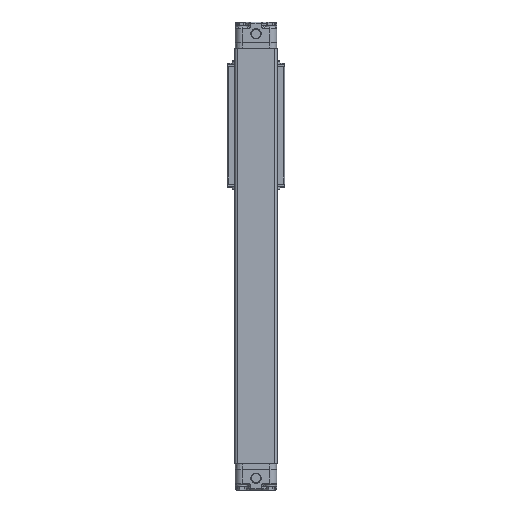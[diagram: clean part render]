
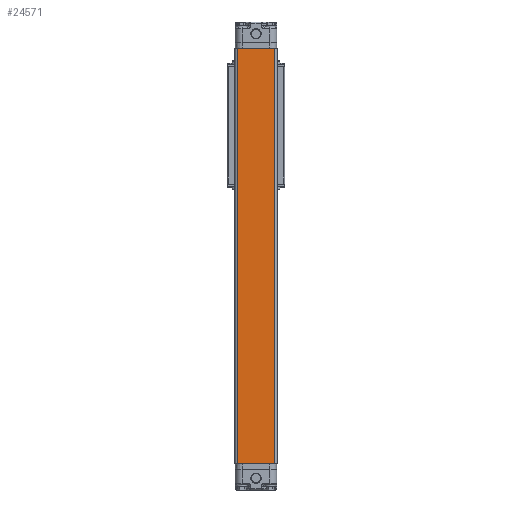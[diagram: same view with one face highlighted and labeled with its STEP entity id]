
A CAD part, front view. The second image highlights one B-rep face of the part: STEP entity #24571.
In plain terms, the highlighted planar face has unit normal (0, -1, 0).
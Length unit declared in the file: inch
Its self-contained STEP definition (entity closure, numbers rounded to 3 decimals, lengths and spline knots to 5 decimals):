
#1163 = ORIENTED_EDGE ( 'NONE', *, *, #21733, .F. ) ;
#1228 = VECTOR ( 'NONE', #38182, 39.37008 ) ;
#4308 = CARTESIAN_POINT ( 'NONE',  ( -0.7155, -0.78, 0. ) ) ;
#6306 = VERTEX_POINT ( 'NONE', #41444 ) ;
#7210 = LINE ( 'NONE', #30112, #13646 ) ;
#8165 = ORIENTED_EDGE ( 'NONE', *, *, #13805, .T. ) ;
#8324 = CARTESIAN_POINT ( 'NONE',  ( -0.53, -0.78, 0. ) ) ;
#8678 = VERTEX_POINT ( 'NONE', #51080 ) ;
#9145 = PLANE ( 'NONE',  #28674 ) ;
#10803 = CARTESIAN_POINT ( 'NONE',  ( 0.7155, -0.78, 0. ) ) ;
#11450 = VERTEX_POINT ( 'NONE', #29585 ) ;
#12719 = DIRECTION ( 'NONE',  ( 1., 0., 0. ) ) ;
#12908 = VECTOR ( 'NONE', #12719, 39.37008 ) ;
#12987 = EDGE_CURVE ( 'NONE', #13177, #43556, #20603, .T. ) ;
#13177 = VERTEX_POINT ( 'NONE', #50375 ) ;
#13288 = ORIENTED_EDGE ( 'NONE', *, *, #19747, .F. ) ;
#13504 = LINE ( 'NONE', #39198, #22242 ) ;
#13646 = VECTOR ( 'NONE', #45135, 39.37008 ) ;
#13805 = EDGE_CURVE ( 'NONE', #14424, #27169, #7210, .T. ) ;
#13888 = CARTESIAN_POINT ( 'NONE',  ( 0.53, -0.78, -15.886 ) ) ;
#14213 = ORIENTED_EDGE ( 'NONE', *, *, #49560, .T. ) ;
#14407 = CARTESIAN_POINT ( 'NONE',  ( -0.7155, -0.78, 0. ) ) ;
#14424 = VERTEX_POINT ( 'NONE', #55982 ) ;
#15069 = DIRECTION ( 'NONE',  ( -1., 0., 0. ) ) ;
#17679 = ORIENTED_EDGE ( 'NONE', *, *, #51837, .T. ) ;
#17739 = VERTEX_POINT ( 'NONE', #27626 ) ;
#18180 = DIRECTION ( 'NONE',  ( 0., -1., 0. ) ) ;
#18479 = DIRECTION ( 'NONE',  ( 1., 0., 0. ) ) ;
#18934 = ORIENTED_EDGE ( 'NONE', *, *, #24048, .F. ) ;
#19747 = EDGE_CURVE ( 'NONE', #43556, #11450, #53980, .T. ) ;
#20603 = LINE ( 'NONE', #38384, #33829 ) ;
#21733 = EDGE_CURVE ( 'NONE', #11450, #17739, #44776, .T. ) ;
#22242 = VECTOR ( 'NONE', #53344, 39.37008 ) ;
#22990 = CARTESIAN_POINT ( 'NONE',  ( -0.7155, -0.78, -15.886 ) ) ;
#24048 = EDGE_CURVE ( 'NONE', #6306, #8678, #55717, .T. ) ;
#24571 = ADVANCED_FACE ( 'NONE', ( #54335 ), #9145, .T. ) ;
#26748 = LINE ( 'NONE', #59228, #44353 ) ;
#27169 = VERTEX_POINT ( 'NONE', #10803 ) ;
#27626 = CARTESIAN_POINT ( 'NONE',  ( 0.61954, -0.78, 0. ) ) ;
#28674 = AXIS2_PLACEMENT_3D ( 'NONE', #22990, #18180, #18479 ) ;
#29585 = CARTESIAN_POINT ( 'NONE',  ( -0.61954, -0.78, 0. ) ) ;
#30112 = CARTESIAN_POINT ( 'NONE',  ( 0.7155, -0.78, -15.886 ) ) ;
#33829 = VECTOR ( 'NONE', #38985, 39.37008 ) ;
#34409 = VECTOR ( 'NONE', #54117, 39.37008 ) ;
#38182 = DIRECTION ( 'NONE',  ( 1., 0., 0. ) ) ;
#38384 = CARTESIAN_POINT ( 'NONE',  ( -0.7155, -0.78, -15.886 ) ) ;
#38985 = DIRECTION ( 'NONE',  ( 0., 0., 1. ) ) ;
#39198 = CARTESIAN_POINT ( 'NONE',  ( -0.7155, -0.78, -15.886 ) ) ;
#41190 = DIRECTION ( 'NONE',  ( 1., 0., 0. ) ) ;
#41444 = CARTESIAN_POINT ( 'NONE',  ( 0.61954, -0.78, -15.886 ) ) ;
#42108 = CARTESIAN_POINT ( 'NONE',  ( -0.7155, -0.78, 0. ) ) ;
#43556 = VERTEX_POINT ( 'NONE', #4308 ) ;
#43602 = ORIENTED_EDGE ( 'NONE', *, *, #54326, .F. ) ;
#44353 = VECTOR ( 'NONE', #41190, 39.37008 ) ;
#44776 = LINE ( 'NONE', #8324, #34409 ) ;
#45135 = DIRECTION ( 'NONE',  ( 0., 0., 1. ) ) ;
#48860 = ORIENTED_EDGE ( 'NONE', *, *, #12987, .F. ) ;
#49560 = EDGE_CURVE ( 'NONE', #13177, #8678, #26748, .T. ) ;
#50375 = CARTESIAN_POINT ( 'NONE',  ( -0.7155, -0.78, -15.886 ) ) ;
#50736 = VECTOR ( 'NONE', #15069, 39.37008 ) ;
#51080 = CARTESIAN_POINT ( 'NONE',  ( -0.61954, -0.78, -15.886 ) ) ;
#51417 = LINE ( 'NONE', #42108, #1228 ) ;
#51837 = EDGE_CURVE ( 'NONE', #6306, #14424, #13504, .T. ) ;
#53344 = DIRECTION ( 'NONE',  ( 1., 0., 0. ) ) ;
#53564 = EDGE_LOOP ( 'NONE', ( #13288, #48860, #14213, #18934, #17679, #8165, #43602, #1163 ) ) ;
#53980 = LINE ( 'NONE', #14407, #12908 ) ;
#54117 = DIRECTION ( 'NONE',  ( 1., 0., 0. ) ) ;
#54326 = EDGE_CURVE ( 'NONE', #17739, #27169, #51417, .T. ) ;
#54335 = FACE_OUTER_BOUND ( 'NONE', #53564, .T. ) ;
#55717 = LINE ( 'NONE', #13888, #50736 ) ;
#55982 = CARTESIAN_POINT ( 'NONE',  ( 0.7155, -0.78, -15.886 ) ) ;
#59228 = CARTESIAN_POINT ( 'NONE',  ( -0.7155, -0.78, -15.886 ) ) ;
